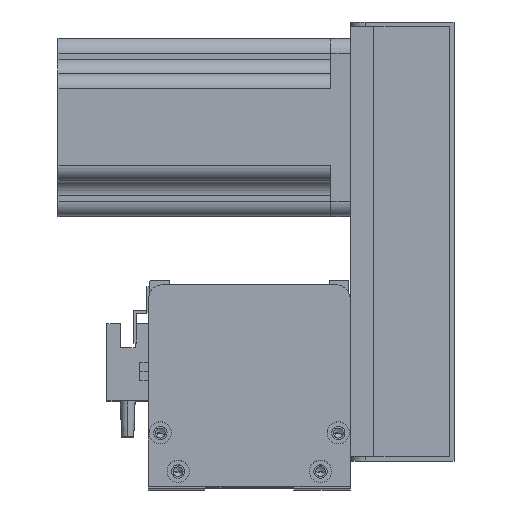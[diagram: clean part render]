
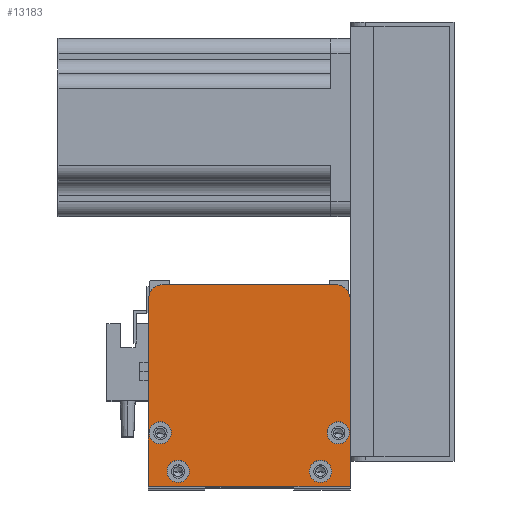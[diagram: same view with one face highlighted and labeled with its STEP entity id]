
A CAD part, top view. The second image highlights one B-rep face of the part: STEP entity #13183.
In plain terms, the highlighted planar face has unit normal (0, 0, 1).
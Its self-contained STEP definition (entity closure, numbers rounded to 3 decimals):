
#220 = CARTESIAN_POINT ( 'NONE',  ( 0.25, 18., 64. ) ) ;
#575 = AXIS2_PLACEMENT_3D ( 'NONE', #10892, #5209, #9713 ) ;
#708 = AXIS2_PLACEMENT_3D ( 'NONE', #23260, #15750, #11694 ) ;
#933 = DIRECTION ( 'NONE',  ( 1., 0., 0. ) ) ;
#960 = VERTEX_POINT ( 'NONE', #11191 ) ;
#1479 = CARTESIAN_POINT ( 'NONE',  ( 64., 18., 64. ) ) ;
#1839 = EDGE_CURVE ( 'NONE', #7070, #13131, #2887, .T. ) ;
#1891 = EDGE_LOOP ( 'NONE', ( #17213, #19480 ) ) ;
#2031 = EDGE_LOOP ( 'NONE', ( #24178, #14257, #22895, #4771, #6992, #4196 ) ) ;
#2370 = PLANE ( 'NONE',  #575 ) ;
#2718 = CARTESIAN_POINT ( 'NONE',  ( 63., 68., 64. ) ) ;
#2769 = VECTOR ( 'NONE', #15776, 1000. ) ;
#2802 = EDGE_LOOP ( 'NONE', ( #21479, #18439 ) ) ;
#2887 = CIRCLE ( 'NONE', #5028, 3.75 ) ;
#3038 = ORIENTED_EDGE ( 'NONE', *, *, #6880, .F. ) ;
#3195 = CARTESIAN_POINT ( 'NONE',  ( 7.75, 18., 64. ) ) ;
#3265 = DIRECTION ( 'NONE',  ( 0., 0., 1. ) ) ;
#3458 = ORIENTED_EDGE ( 'NONE', *, *, #15015, .F. ) ;
#3691 = AXIS2_PLACEMENT_3D ( 'NONE', #23156, #3904, #17412 ) ;
#3700 = DIRECTION ( 'NONE',  ( 1., 0., 0. ) ) ;
#3904 = DIRECTION ( 'NONE',  ( 0., 0., 1. ) ) ;
#3942 = CARTESIAN_POINT ( 'NONE',  ( 68., 68., 64. ) ) ;
#4135 = CIRCLE ( 'NONE', #19654, 5. ) ;
#4196 = ORIENTED_EDGE ( 'NONE', *, *, #19532, .T. ) ;
#4463 = VERTEX_POINT ( 'NONE', #17661 ) ;
#4670 = AXIS2_PLACEMENT_3D ( 'NONE', #16681, #3265, #22261 ) ;
#4771 = ORIENTED_EDGE ( 'NONE', *, *, #14379, .T. ) ;
#5028 = AXIS2_PLACEMENT_3D ( 'NONE', #14175, #21753, #14331 ) ;
#5137 = AXIS2_PLACEMENT_3D ( 'NONE', #8308, #15991, #10052 ) ;
#5143 = AXIS2_PLACEMENT_3D ( 'NONE', #9615, #9525, #7920 ) ;
#5209 = DIRECTION ( 'NONE',  ( 0., 0., 1. ) ) ;
#5414 = CIRCLE ( 'NONE', #14569, 3.75 ) ;
#5740 = CARTESIAN_POINT ( 'NONE',  ( 0., 0., 64. ) ) ;
#5792 = VERTEX_POINT ( 'NONE', #23864 ) ;
#5918 = CARTESIAN_POINT ( 'NONE',  ( 68., 0., 64. ) ) ;
#5941 = CARTESIAN_POINT ( 'NONE',  ( 68., 0., 64. ) ) ;
#5993 = VECTOR ( 'NONE', #11765, 1000. ) ;
#6019 = CARTESIAN_POINT ( 'NONE',  ( 0., 63., 64. ) ) ;
#6460 = VERTEX_POINT ( 'NONE', #14463 ) ;
#6880 = EDGE_CURVE ( 'NONE', #18909, #4463, #14584, .T. ) ;
#6992 = ORIENTED_EDGE ( 'NONE', *, *, #21392, .T. ) ;
#7070 = VERTEX_POINT ( 'NONE', #3195 ) ;
#7143 = VERTEX_POINT ( 'NONE', #24571 ) ;
#7506 = EDGE_CURVE ( 'NONE', #15942, #21386, #4135, .T. ) ;
#7920 = DIRECTION ( 'NONE',  ( 1., 0., 0. ) ) ;
#8308 = CARTESIAN_POINT ( 'NONE',  ( 58., 5., 64. ) ) ;
#8467 = ORIENTED_EDGE ( 'NONE', *, *, #23742, .F. ) ;
#8743 = LINE ( 'NONE', #18548, #14478 ) ;
#9525 = DIRECTION ( 'NONE',  ( 0., 0., 1. ) ) ;
#9615 = CARTESIAN_POINT ( 'NONE',  ( 58., 5., 64. ) ) ;
#9625 = VERTEX_POINT ( 'NONE', #5740 ) ;
#9713 = DIRECTION ( 'NONE',  ( 1., 0., 0. ) ) ;
#10052 = DIRECTION ( 'NONE',  ( 1., 0., 0. ) ) ;
#10148 = CARTESIAN_POINT ( 'NONE',  ( 67.75, 18., 64. ) ) ;
#10331 = CARTESIAN_POINT ( 'NONE',  ( 63., 63., 64. ) ) ;
#10405 = FACE_BOUND ( 'NONE', #2802, .T. ) ;
#10827 = AXIS2_PLACEMENT_3D ( 'NONE', #11681, #12494, #933 ) ;
#10858 = DIRECTION ( 'NONE',  ( 1., 0., 0. ) ) ;
#10892 = CARTESIAN_POINT ( 'NONE',  ( 0., 0., 64. ) ) ;
#11191 = CARTESIAN_POINT ( 'NONE',  ( 68., 0., 64. ) ) ;
#11225 = LINE ( 'NONE', #5918, #19982 ) ;
#11681 = CARTESIAN_POINT ( 'NONE',  ( 64., 18., 64. ) ) ;
#11694 = DIRECTION ( 'NONE',  ( 1., 0., 0. ) ) ;
#11765 = DIRECTION ( 'NONE',  ( 0., 1., 0. ) ) ;
#11902 = FACE_BOUND ( 'NONE', #1891, .T. ) ;
#11951 = CARTESIAN_POINT ( 'NONE',  ( 60.25, 18., 64. ) ) ;
#12258 = DIRECTION ( 'NONE',  ( 1., 0., 0. ) ) ;
#12494 = DIRECTION ( 'NONE',  ( 0., 0., 1. ) ) ;
#12728 = CIRCLE ( 'NONE', #5143, 3.75 ) ;
#12781 = AXIS2_PLACEMENT_3D ( 'NONE', #10331, #23847, #12258 ) ;
#13116 = FACE_OUTER_BOUND ( 'NONE', #2031, .T. ) ;
#13131 = VERTEX_POINT ( 'NONE', #220 ) ;
#13153 = VERTEX_POINT ( 'NONE', #11951 ) ;
#13183 = ADVANCED_FACE ( 'NONE', ( #11902, #10405, #16429, #15220, #13116 ), #2370, .T. ) ;
#14175 = CARTESIAN_POINT ( 'NONE',  ( 4., 18., 64. ) ) ;
#14257 = ORIENTED_EDGE ( 'NONE', *, *, #7506, .T. ) ;
#14331 = DIRECTION ( 'NONE',  ( 1., 0., 0. ) ) ;
#14379 = EDGE_CURVE ( 'NONE', #9625, #960, #11225, .T. ) ;
#14388 = CIRCLE ( 'NONE', #5137, 3.75 ) ;
#14463 = CARTESIAN_POINT ( 'NONE',  ( 68., 63., 64. ) ) ;
#14469 = EDGE_CURVE ( 'NONE', #16774, #15942, #19386, .T. ) ;
#14478 = VECTOR ( 'NONE', #14528, 1000. ) ;
#14528 = DIRECTION ( 'NONE',  ( 0., -1., 0. ) ) ;
#14569 = AXIS2_PLACEMENT_3D ( 'NONE', #1479, #16598, #10858 ) ;
#14584 = CIRCLE ( 'NONE', #708, 3.75 ) ;
#14765 = LINE ( 'NONE', #5941, #5993 ) ;
#15015 = EDGE_CURVE ( 'NONE', #4463, #18909, #15193, .T. ) ;
#15193 = CIRCLE ( 'NONE', #3691, 3.75 ) ;
#15220 = FACE_BOUND ( 'NONE', #21825, .T. ) ;
#15750 = DIRECTION ( 'NONE',  ( 0., 0., 1. ) ) ;
#15776 = DIRECTION ( 'NONE',  ( -1., 0., 0. ) ) ;
#15942 = VERTEX_POINT ( 'NONE', #21284 ) ;
#15991 = DIRECTION ( 'NONE',  ( 0., 0., 1. ) ) ;
#16053 = CIRCLE ( 'NONE', #12781, 5. ) ;
#16079 = EDGE_CURVE ( 'NONE', #13153, #16631, #18631, .T. ) ;
#16190 = DIRECTION ( 'NONE',  ( 0., 0., 1. ) ) ;
#16250 = ORIENTED_EDGE ( 'NONE', *, *, #18623, .F. ) ;
#16429 = FACE_BOUND ( 'NONE', #21793, .T. ) ;
#16598 = DIRECTION ( 'NONE',  ( 0., 0., 1. ) ) ;
#16631 = VERTEX_POINT ( 'NONE', #10148 ) ;
#16681 = CARTESIAN_POINT ( 'NONE',  ( 4., 18., 64. ) ) ;
#16774 = VERTEX_POINT ( 'NONE', #2718 ) ;
#17213 = ORIENTED_EDGE ( 'NONE', *, *, #20195, .F. ) ;
#17412 = DIRECTION ( 'NONE',  ( 1., 0., 0. ) ) ;
#17661 = CARTESIAN_POINT ( 'NONE',  ( 6.25, 5., 64. ) ) ;
#17853 = CARTESIAN_POINT ( 'NONE',  ( 5., 63., 64. ) ) ;
#18439 = ORIENTED_EDGE ( 'NONE', *, *, #19092, .F. ) ;
#18548 = CARTESIAN_POINT ( 'NONE',  ( 0., 0., 64. ) ) ;
#18623 = EDGE_CURVE ( 'NONE', #5792, #7143, #12728, .T. ) ;
#18631 = CIRCLE ( 'NONE', #10827, 3.75 ) ;
#18762 = CIRCLE ( 'NONE', #4670, 3.75 ) ;
#18909 = VERTEX_POINT ( 'NONE', #22231 ) ;
#19092 = EDGE_CURVE ( 'NONE', #13131, #7070, #18762, .T. ) ;
#19386 = LINE ( 'NONE', #3942, #2769 ) ;
#19480 = ORIENTED_EDGE ( 'NONE', *, *, #16079, .F. ) ;
#19532 = EDGE_CURVE ( 'NONE', #6460, #16774, #16053, .T. ) ;
#19654 = AXIS2_PLACEMENT_3D ( 'NONE', #17853, #16190, #20049 ) ;
#19982 = VECTOR ( 'NONE', #3700, 1000. ) ;
#20049 = DIRECTION ( 'NONE',  ( 1., 0., 0. ) ) ;
#20195 = EDGE_CURVE ( 'NONE', #16631, #13153, #5414, .T. ) ;
#20824 = EDGE_CURVE ( 'NONE', #21386, #9625, #8743, .T. ) ;
#21284 = CARTESIAN_POINT ( 'NONE',  ( 5., 68., 64. ) ) ;
#21386 = VERTEX_POINT ( 'NONE', #6019 ) ;
#21392 = EDGE_CURVE ( 'NONE', #960, #6460, #14765, .T. ) ;
#21479 = ORIENTED_EDGE ( 'NONE', *, *, #1839, .F. ) ;
#21753 = DIRECTION ( 'NONE',  ( 0., 0., 1. ) ) ;
#21793 = EDGE_LOOP ( 'NONE', ( #3038, #3458 ) ) ;
#21825 = EDGE_LOOP ( 'NONE', ( #16250, #8467 ) ) ;
#22231 = CARTESIAN_POINT ( 'NONE',  ( 13.75, 5., 64. ) ) ;
#22261 = DIRECTION ( 'NONE',  ( 1., 0., 0. ) ) ;
#22895 = ORIENTED_EDGE ( 'NONE', *, *, #20824, .T. ) ;
#23156 = CARTESIAN_POINT ( 'NONE',  ( 10., 5., 64. ) ) ;
#23260 = CARTESIAN_POINT ( 'NONE',  ( 10., 5., 64. ) ) ;
#23742 = EDGE_CURVE ( 'NONE', #7143, #5792, #14388, .T. ) ;
#23847 = DIRECTION ( 'NONE',  ( 0., 0., 1. ) ) ;
#23864 = CARTESIAN_POINT ( 'NONE',  ( 61.75, 5., 64. ) ) ;
#24178 = ORIENTED_EDGE ( 'NONE', *, *, #14469, .T. ) ;
#24571 = CARTESIAN_POINT ( 'NONE',  ( 54.25, 5., 64. ) ) ;
